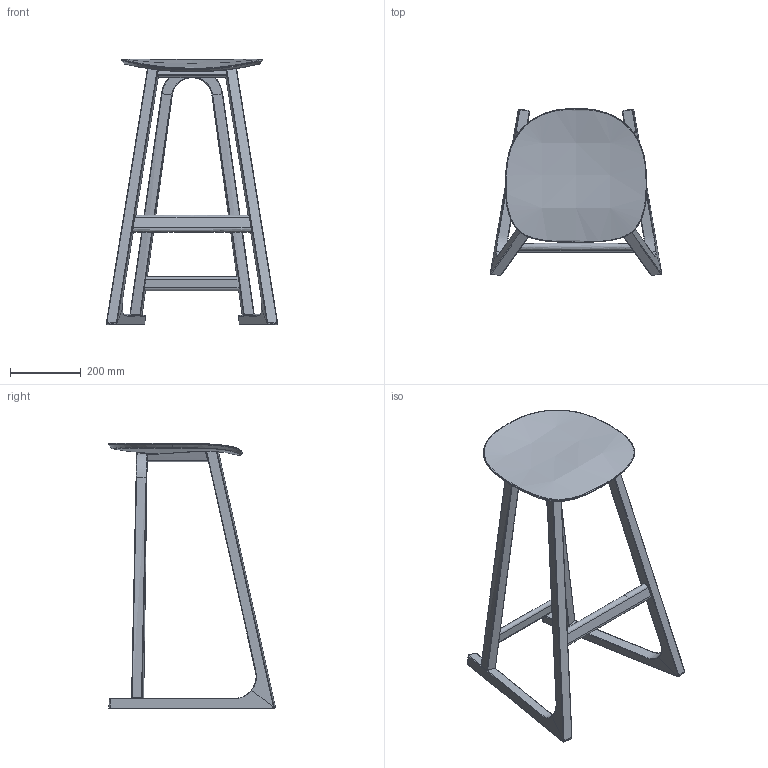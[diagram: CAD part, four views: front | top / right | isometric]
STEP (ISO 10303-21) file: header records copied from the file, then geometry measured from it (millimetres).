
FILE_DESCRIPTION(/* description */ (''),/* implementation_level */ '2;1');
FILE_NAME(/* name */ 'Sprint2020_Alto_3D',/* time_stamp */ '2020-04-17T11:34:49+02:00',/* author */ (''),/* organization */ (''),/* preprocessor_version */ 'ST-DEVELOPER v15',/* originating_system */ '',/* authorisation */ '');
FILE_SCHEMA (('AUTOMOTIVE_DESIGN'));
Length unit declared in the file: millimetre
Products named in the file (1): Document
Bounding box: 484.49 x 471.43 x 749.91 mm (x, y, z)
Volume: 4551708.9 mm3; surface area: 862642.2 mm2
Topology: 8 solids, 10 shells, 265 faces, 529 edges, 284 vertices
Faces by surface type: bspline 243, plane 22
Entity records: 15460 total; most frequent: CARTESIAN_POINT 12507, ORIENTED_EDGE 1042, EDGE_CURVE 529, VERTEX_POINT 282, ADVANCED_FACE 265, FACE_OUTER_BOUND 265, EDGE_LOOP 265, B_SPLINE_CURVE_WITH_KNOTS 129
